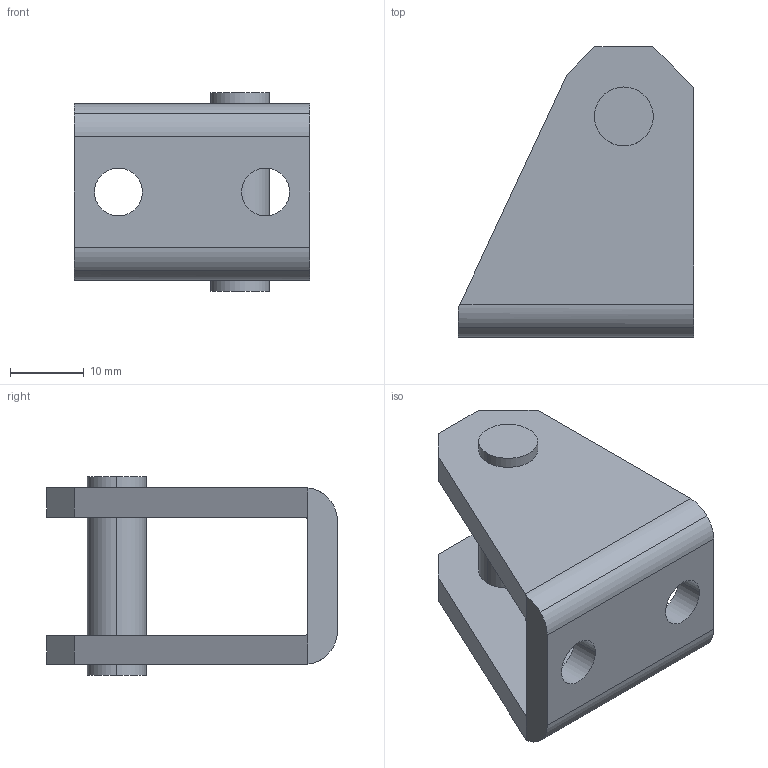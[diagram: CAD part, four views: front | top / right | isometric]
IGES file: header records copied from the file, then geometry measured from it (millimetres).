
Global section: file name: No Iges File Name specified; native system: AutoDesk Inventor R6.0; preprocessor: AutoDesk Inventor Iges Exporter R6.0; author: No Author specified; organization: No Organization specified; date: 20030408.082043; units: millimetre
Bounding box: 32 x 39.5 x 27 mm (x, y, z)
Volume: 9992.8 mm3; surface area: 5957.9 mm2
Topology: 1 solids, 1 shells, 36 faces, 94 edges, 62 vertices
Faces by surface type: plane 18, cylinder 10, bspline 4, revolution 4
